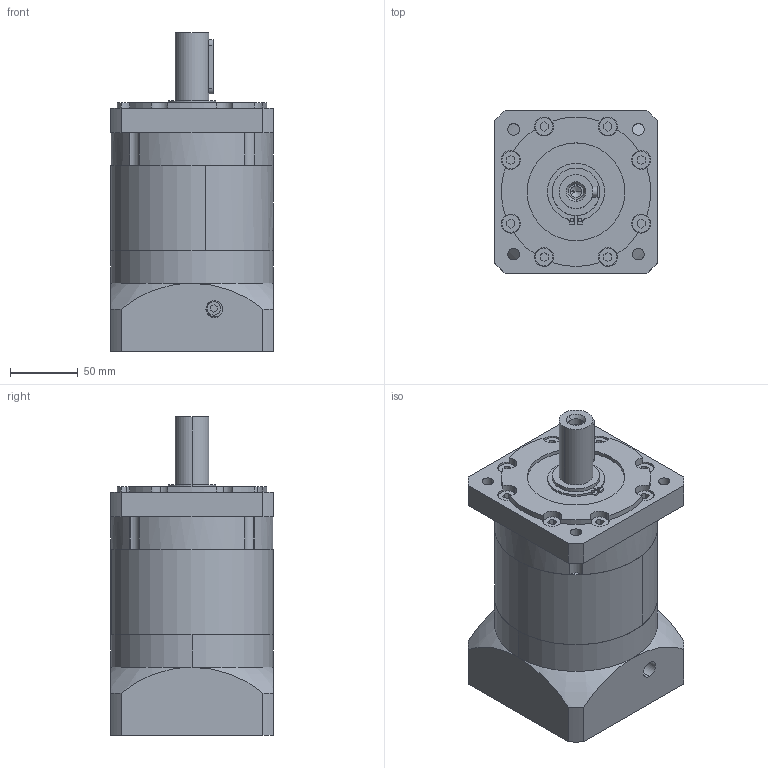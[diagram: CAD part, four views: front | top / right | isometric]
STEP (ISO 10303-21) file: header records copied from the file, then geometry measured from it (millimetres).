
FILE_DESCRIPTION (( 'STEP AP203' ), '1' );
FILE_NAME ('PLF120-L2-19-95-130.STEP', '2022-06-23T02:27:40', ( 'Windows User' ), ( 'P R C' ), 'SwSTEP 2.0', 'SolidWorks 2016', '' );
FILE_SCHEMA (( 'CONFIG_CONTROL_DESIGN' ));
Length unit declared in the file: millimetre
Products named in the file (8): PLF120 狟屳唳-19; 粣創-6007 40x68x15; 邧埴瑩 8x7x40; PLF120-L2-19-95-130; 囀鞠褒蹟佪 M6x20; PLF120 蟀諉啣-95-M8-130-LR57; PLF120 內齿圈-优化_二级内齿圈; PLF120 奻屳唳-25
Assembly tree (7 placements, depth 2):
  PLF120-L2-19-95-130
    囀鞠褒蹟佪 M6x20
    PLF120 蟀諉啣-95-M8-130-LR57
    PLF120 內齿圈-优化_二级内齿圈
    PLF120 奻屳唳-25
    PLF120 狟屳唳-19
    粣創-6007 40x68x15
    邧埴瑩 8x7x40
Bounding box: 120 x 120 x 234.5 mm (x, y, z)
Volume: 2049178 mm3; surface area: 252416 mm2
Topology: 7 solids, 15 shells, 1133 faces, 3059 edges, 2021 vertices
Faces by surface type: plane 600, cylinder 222, bspline 151, sphere 94, torus 52, cone 14
Entity records: 47128 total; most frequent: CARTESIAN_POINT 18785, ORIENTED_EDGE 6086, DIRECTION 5172, EDGE_CURVE 3043, VERTEX_POINT 2017, AXIS2_PLACEMENT_3D 1834, LINE 1504, VECTOR 1504
